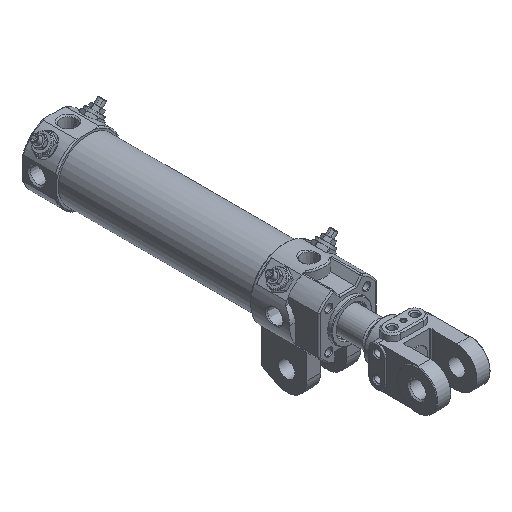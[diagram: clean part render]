
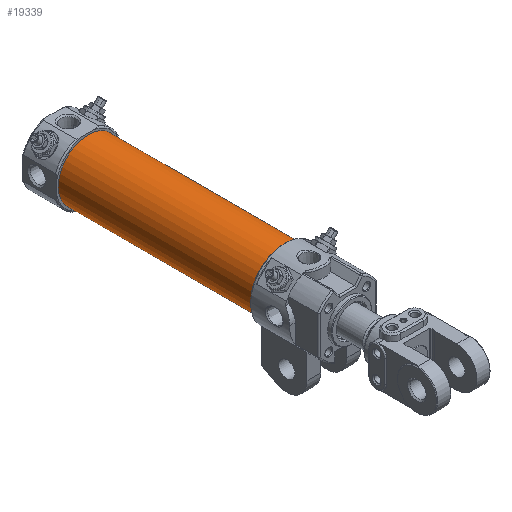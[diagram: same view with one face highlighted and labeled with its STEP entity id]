
A CAD part, isometric view. The second image highlights one B-rep face of the part: STEP entity #19339.
In plain terms, the highlighted cylindrical face has radius 22.5 mm (diameter 45 mm), a full revolution.
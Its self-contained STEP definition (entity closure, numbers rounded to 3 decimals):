
#14018=CARTESIAN_POINT('',(22.5,196.5,0.));
#14019=VERTEX_POINT('',#14018);
#14020=CARTESIAN_POINT('',(0.0,196.5,0.0));
#14021=DIRECTION('',(0.0,-1.0,0.0));
#14022=DIRECTION('',(-1.0,0.0,0.0));
#14023=AXIS2_PLACEMENT_3D('',#14020,#14021,#14022);
#14024=CIRCLE('',#14023,22.5);
#14025=EDGE_CURVE('',#14019,#14019,#14024,.T.);
#19316=CARTESIAN_POINT('',(22.5,50.5,0.));
#19317=VERTEX_POINT('',#19316);
#19318=CARTESIAN_POINT('',(0.0,50.5,0.0));
#19319=DIRECTION('',(0.0,-1.0,0.0));
#19320=DIRECTION('',(-1.0,0.0,0.0));
#19321=AXIS2_PLACEMENT_3D('',#19318,#19319,#19320);
#19322=CIRCLE('',#19321,22.5);
#19323=EDGE_CURVE('',#19317,#19317,#19322,.T.);
#19328=CARTESIAN_POINT('',(0.0,50.5,0.0));
#19329=DIRECTION('',(0.0,1.0,0.0));
#19330=DIRECTION('',(-1.0,0.0,0.0));
#19331=AXIS2_PLACEMENT_3D('',#19328,#19329,#19330);
#19332=CYLINDRICAL_SURFACE('',#19331,22.5);
#19333=ORIENTED_EDGE('',*,*,#14025,.T.);
#19334=EDGE_LOOP('',(#19333));
#19335=FACE_OUTER_BOUND('',#19334,.T.);
#19336=ORIENTED_EDGE('',*,*,#19323,.F.);
#19337=EDGE_LOOP('',(#19336));
#19338=FACE_BOUND('',#19337,.T.);
#19339=ADVANCED_FACE('',(#19335,#19338),#19332,.T.);
